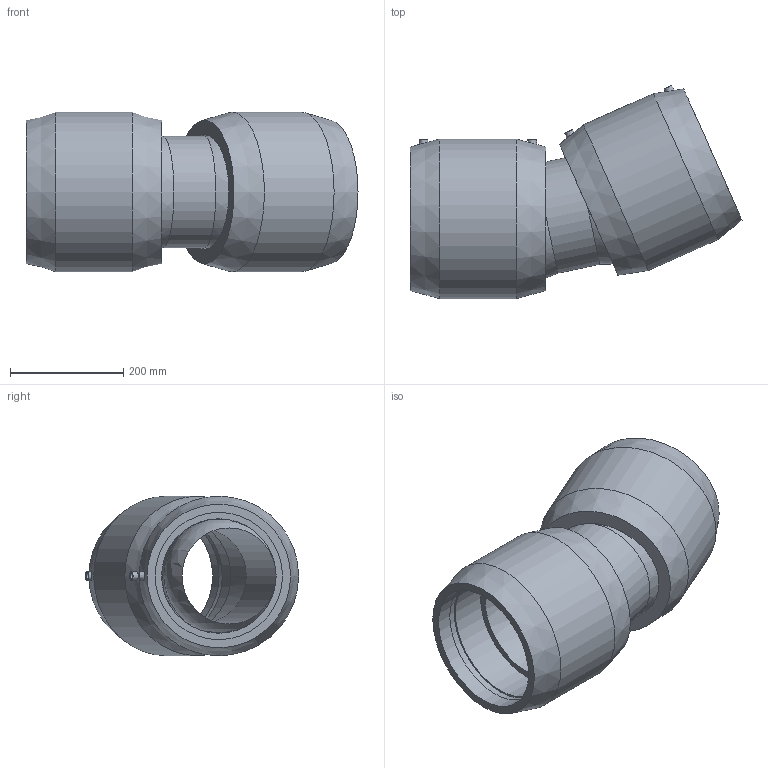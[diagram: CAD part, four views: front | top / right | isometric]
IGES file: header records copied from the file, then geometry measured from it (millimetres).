
Global section: file name: 4947C4225.ipt; native system: Autodesk Inventor 2015; preprocessor: unknown; author: KIM; date: 20190124.130450; units: millimetre
Bounding box: 586.89 x 376.87 x 282 mm (x, y, z)
Volume: 13467998.7 mm3; surface area: 1035882.8 mm2
Topology: 1 solids, 1 shells, 50 faces, 114 edges, 78 vertices
Faces by surface type: plane 20, revolution 13, cone 8, cylinder 7, sphere 2
Full cylindrical faces by diameter (mm): 4 x4, 197.007 x1, 282 x2
